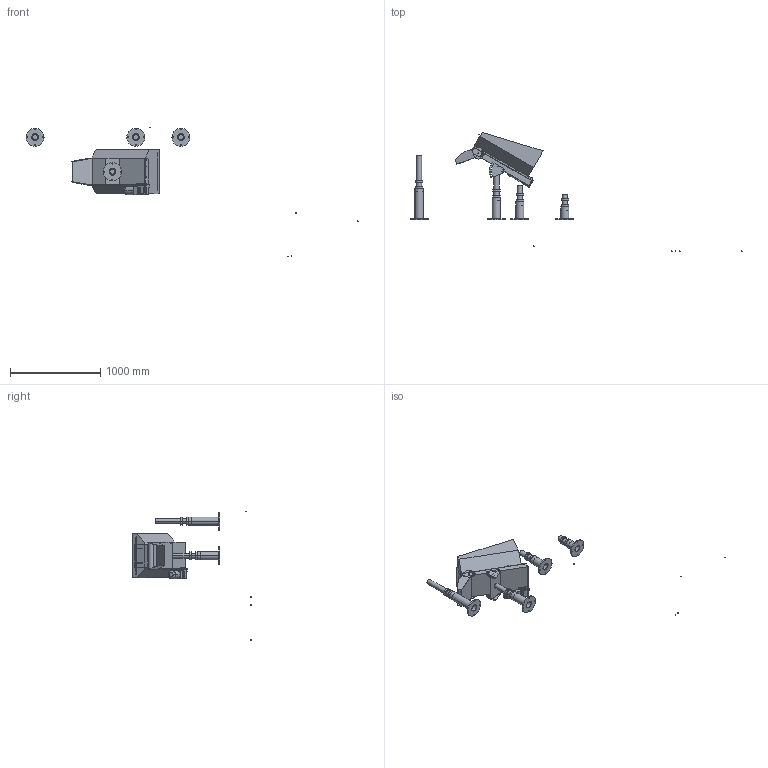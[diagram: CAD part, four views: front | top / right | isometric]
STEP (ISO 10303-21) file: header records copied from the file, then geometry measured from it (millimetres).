
FILE_DESCRIPTION (( 'STEP AP203' ), '1' );
FILE_NAME ('SC20-68怀冞蹋累.STEP', '2025-07-13T03:11:01', ( '' ), ( '' ), 'SwSTEP 2.0', 'SolidWorks 2022', '' );
FILE_SCHEMA (( 'CONFIG_CONTROL_DESIGN' ));
Length unit declared in the file: millimetre
Products named in the file (1): SC20-68怀冞蹋累
Bounding box: 3669.11 x 1314.22 x 1435.43 mm (x, y, z)
Volume: 102035408.2 mm3; surface area: 4331191.8 mm2
Topology: 55 solids, 55 shells, 954 faces, 2455 edges, 1604 vertices
Faces by surface type: cylinder 465, plane 427, sphere 40, bspline 8, cone 8, torus 6
Entity records: 29920 total; most frequent: CARTESIAN_POINT 5446, DIRECTION 5403, ORIENTED_EDGE 4806, EDGE_CURVE 2403, AXIS2_PLACEMENT_3D 2071, VERTEX_POINT 1592, VECTOR 1261, LINE 1261
